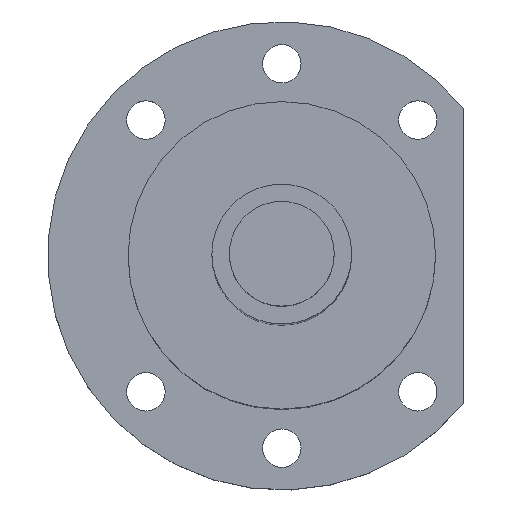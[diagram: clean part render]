
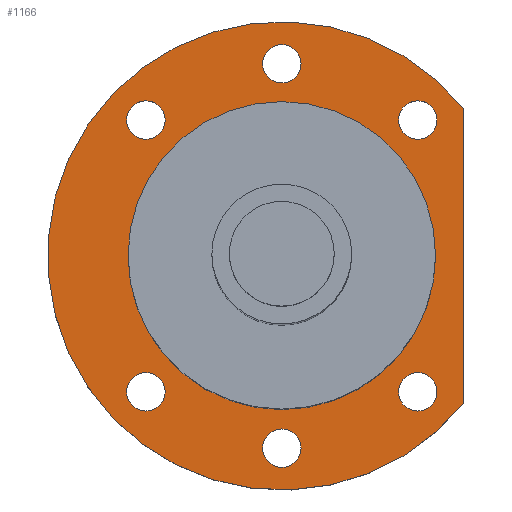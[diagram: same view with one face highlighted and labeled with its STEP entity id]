
A CAD part, top view. The second image highlights one B-rep face of the part: STEP entity #1166.
In plain terms, the highlighted planar face has unit normal (0, 0, 1).
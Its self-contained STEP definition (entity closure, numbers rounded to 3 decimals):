
#162=CARTESIAN_POINT('',(19.445,19.445,206.5));
#163=DIRECTION('',(0.,0.,-1.));
#164=DIRECTION('',(1.,0.,0.));
#165=AXIS2_PLACEMENT_3D('',#162,#163,#164);
#167=CARTESIAN_POINT('',(19.445,19.445,206.5));
#168=DIRECTION('',(0.,0.,-1.));
#169=DIRECTION('',(-1.,0.,0.));
#170=AXIS2_PLACEMENT_3D('',#167,#168,#169);
#172=CARTESIAN_POINT('',(0.,27.5,206.5));
#173=DIRECTION('',(0.,0.,-1.));
#174=DIRECTION('',(1.,0.,0.));
#175=AXIS2_PLACEMENT_3D('',#172,#173,#174);
#177=CARTESIAN_POINT('',(0.,27.5,206.5));
#178=DIRECTION('',(0.,0.,-1.));
#179=DIRECTION('',(-1.,0.,0.));
#180=AXIS2_PLACEMENT_3D('',#177,#178,#179);
#182=CARTESIAN_POINT('',(-19.445,19.445,206.5));
#183=DIRECTION('',(0.,0.,-1.));
#184=DIRECTION('',(1.,0.,0.));
#185=AXIS2_PLACEMENT_3D('',#182,#183,#184);
#187=CARTESIAN_POINT('',(-19.445,19.445,206.5));
#188=DIRECTION('',(0.,0.,-1.));
#189=DIRECTION('',(-1.,0.,0.));
#190=AXIS2_PLACEMENT_3D('',#187,#188,#189);
#192=CARTESIAN_POINT('',(-19.445,-19.445,206.5));
#193=DIRECTION('',(0.,0.,-1.));
#194=DIRECTION('',(1.,0.,0.));
#195=AXIS2_PLACEMENT_3D('',#192,#193,#194);
#197=CARTESIAN_POINT('',(-19.445,-19.445,206.5));
#198=DIRECTION('',(0.,0.,-1.));
#199=DIRECTION('',(-1.,0.,0.));
#200=AXIS2_PLACEMENT_3D('',#197,#198,#199);
#202=CARTESIAN_POINT('',(0.,-27.5,206.5));
#203=DIRECTION('',(0.,0.,-1.));
#204=DIRECTION('',(1.,0.,0.));
#205=AXIS2_PLACEMENT_3D('',#202,#203,#204);
#207=CARTESIAN_POINT('',(0.,-27.5,206.5));
#208=DIRECTION('',(0.,0.,-1.));
#209=DIRECTION('',(-1.,0.,0.));
#210=AXIS2_PLACEMENT_3D('',#207,#208,#209);
#212=CARTESIAN_POINT('',(19.445,-19.445,206.5));
#213=DIRECTION('',(0.,0.,-1.));
#214=DIRECTION('',(1.,0.,0.));
#215=AXIS2_PLACEMENT_3D('',#212,#213,#214);
#217=CARTESIAN_POINT('',(19.445,-19.445,206.5));
#218=DIRECTION('',(0.,0.,-1.));
#219=DIRECTION('',(-1.,0.,0.));
#220=AXIS2_PLACEMENT_3D('',#217,#218,#219);
#222=CARTESIAN_POINT('',(0.,0.,206.5));
#223=DIRECTION('',(0.,0.,1.));
#224=DIRECTION('',(0.776,0.631,0.));
#225=AXIS2_PLACEMENT_3D('',#222,#223,#224);
#227=DIRECTION('',(0.,1.,0.));
#228=VECTOR('',#227,42.249);
#229=CARTESIAN_POINT('',(26.,-21.125,206.5));
#230=LINE('',#229,#228);
#231=CARTESIAN_POINT('',(0.,0.,206.5));
#232=DIRECTION('',(0.,0.,1.));
#233=DIRECTION('',(0.,-1.,0.));
#234=AXIS2_PLACEMENT_3D('',#231,#232,#233);
#236=CARTESIAN_POINT('',(0.,0.,206.5));
#237=DIRECTION('',(0.,0.,1.));
#238=DIRECTION('',(0.,1.,0.));
#239=AXIS2_PLACEMENT_3D('',#236,#237,#238);
#751=CARTESIAN_POINT('',(22.195,19.445,206.5));
#752=CARTESIAN_POINT('',(16.695,19.445,206.5));
#753=VERTEX_POINT('',#751);
#754=VERTEX_POINT('',#752);
#755=CARTESIAN_POINT('',(2.75,27.5,206.5));
#756=CARTESIAN_POINT('',(-2.75,27.5,206.5));
#757=VERTEX_POINT('',#755);
#758=VERTEX_POINT('',#756);
#759=CARTESIAN_POINT('',(-16.695,19.445,206.5));
#760=CARTESIAN_POINT('',(-22.195,19.445,206.5));
#761=VERTEX_POINT('',#759);
#762=VERTEX_POINT('',#760);
#763=CARTESIAN_POINT('',(-16.695,-19.445,206.5));
#764=CARTESIAN_POINT('',(-22.195,-19.445,206.5));
#765=VERTEX_POINT('',#763);
#766=VERTEX_POINT('',#764);
#767=CARTESIAN_POINT('',(2.75,-27.5,206.5));
#768=CARTESIAN_POINT('',(-2.75,-27.5,206.5));
#769=VERTEX_POINT('',#767);
#770=VERTEX_POINT('',#768);
#771=CARTESIAN_POINT('',(22.195,-19.445,206.5));
#772=CARTESIAN_POINT('',(16.695,-19.445,206.5));
#773=VERTEX_POINT('',#771);
#774=VERTEX_POINT('',#772);
#775=CARTESIAN_POINT('',(26.,21.125,206.5));
#776=CARTESIAN_POINT('',(26.,-21.125,206.5));
#777=VERTEX_POINT('',#775);
#778=VERTEX_POINT('',#776);
#859=CARTESIAN_POINT('',(0.,-22.,206.5));
#860=CARTESIAN_POINT('',(0.,22.,206.5));
#861=VERTEX_POINT('',#859);
#862=VERTEX_POINT('',#860);
#1115=CARTESIAN_POINT('',(0.,0.,206.5));
#1116=DIRECTION('',(0.,0.,1.));
#1117=DIRECTION('',(1.,0.,0.));
#1118=AXIS2_PLACEMENT_3D('',#1115,#1116,#1117);
#1119=PLANE('',#1118);
#1120=ORIENTED_EDGE('',*,*,#1095,.F.);
#1121=ORIENTED_EDGE('',*,*,#1109,.F.);
#1122=EDGE_LOOP('',(#1120,#1121));
#1123=FACE_OUTER_BOUND('',#1122,.F.);
#1125=ORIENTED_EDGE('',*,*,#1124,.F.);
#1127=ORIENTED_EDGE('',*,*,#1126,.F.);
#1128=EDGE_LOOP('',(#1125,#1127));
#1129=FACE_BOUND('',#1128,.F.);
#1131=ORIENTED_EDGE('',*,*,#1130,.F.);
#1133=ORIENTED_EDGE('',*,*,#1132,.F.);
#1134=EDGE_LOOP('',(#1131,#1133));
#1135=FACE_BOUND('',#1134,.F.);
#1137=ORIENTED_EDGE('',*,*,#1136,.F.);
#1139=ORIENTED_EDGE('',*,*,#1138,.F.);
#1140=EDGE_LOOP('',(#1137,#1139));
#1141=FACE_BOUND('',#1140,.F.);
#1143=ORIENTED_EDGE('',*,*,#1142,.F.);
#1145=ORIENTED_EDGE('',*,*,#1144,.F.);
#1146=EDGE_LOOP('',(#1143,#1145));
#1147=FACE_BOUND('',#1146,.F.);
#1149=ORIENTED_EDGE('',*,*,#1148,.F.);
#1151=ORIENTED_EDGE('',*,*,#1150,.F.);
#1152=EDGE_LOOP('',(#1149,#1151));
#1153=FACE_BOUND('',#1152,.F.);
#1155=ORIENTED_EDGE('',*,*,#1154,.F.);
#1157=ORIENTED_EDGE('',*,*,#1156,.F.);
#1158=EDGE_LOOP('',(#1155,#1157));
#1159=FACE_BOUND('',#1158,.F.);
#1161=ORIENTED_EDGE('',*,*,#1160,.T.);
#1163=ORIENTED_EDGE('',*,*,#1162,.T.);
#1164=EDGE_LOOP('',(#1161,#1163));
#1165=FACE_BOUND('',#1164,.F.);
#1166=ADVANCED_FACE('',(#1123,#1129,#1135,#1141,#1147,#1153,#1159,#1165),#1119,
.T.);
#166=CIRCLE('',#165,2.75);
#171=CIRCLE('',#170,2.75);
#176=CIRCLE('',#175,2.75);
#181=CIRCLE('',#180,2.75);
#186=CIRCLE('',#185,2.75);
#191=CIRCLE('',#190,2.75);
#196=CIRCLE('',#195,2.75);
#201=CIRCLE('',#200,2.75);
#206=CIRCLE('',#205,2.75);
#211=CIRCLE('',#210,2.75);
#216=CIRCLE('',#215,2.75);
#221=CIRCLE('',#220,2.75);
#226=CIRCLE('',#225,33.5);
#235=CIRCLE('',#234,22.);
#240=CIRCLE('',#239,22.);
#1095=EDGE_CURVE('',#777,#778,#226,.T.);
#1109=EDGE_CURVE('',#778,#777,#230,.T.);
#1124=EDGE_CURVE('',#753,#754,#166,.T.);
#1126=EDGE_CURVE('',#754,#753,#171,.T.);
#1130=EDGE_CURVE('',#757,#758,#176,.T.);
#1132=EDGE_CURVE('',#758,#757,#181,.T.);
#1136=EDGE_CURVE('',#761,#762,#186,.T.);
#1138=EDGE_CURVE('',#762,#761,#191,.T.);
#1142=EDGE_CURVE('',#765,#766,#196,.T.);
#1144=EDGE_CURVE('',#766,#765,#201,.T.);
#1148=EDGE_CURVE('',#769,#770,#206,.T.);
#1150=EDGE_CURVE('',#770,#769,#211,.T.);
#1154=EDGE_CURVE('',#773,#774,#216,.T.);
#1156=EDGE_CURVE('',#774,#773,#221,.T.);
#1160=EDGE_CURVE('',#861,#862,#235,.T.);
#1162=EDGE_CURVE('',#862,#861,#240,.T.);
